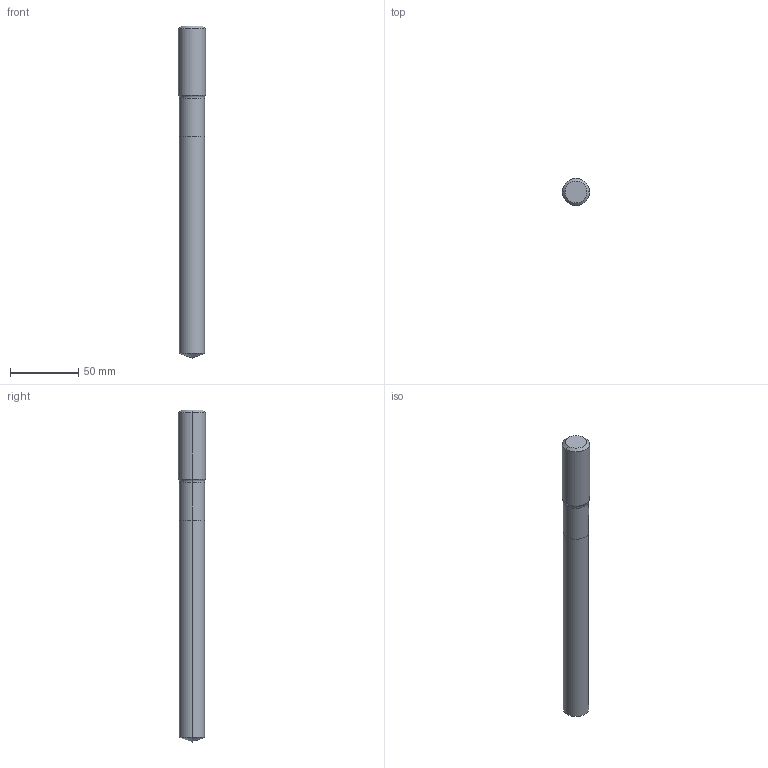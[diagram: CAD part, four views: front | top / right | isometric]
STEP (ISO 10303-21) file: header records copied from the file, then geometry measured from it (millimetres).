
FILE_DESCRIPTION (( 'STEP AP214' ), '1' );
FILE_NAME ('754.185.00_3D-model.step', '2023-08-22T07:38:07', ( '' ), ( '' ), 'SwSTEP 2.0', 'SolidWorks 2020', '' );
FILE_SCHEMA (( 'AUTOMOTIVE_DESIGN' ));
Length unit declared in the file: millimetre
Products named in the file (3): NOCUT-3D^Baugr91; 754.185.00_3D-model; CUT-3D^Baugr91
Assembly tree (2 placements, depth 2):
  754.185.00_3D-model
    CUT-3D^Baugr91
    NOCUT-3D^Baugr91
Bounding box: 20 x 20 x 243 mm (x, y, z)
Volume: 66929.8 mm3; surface area: 15237.9 mm2
Topology: 2 solids, 2 shells, 17 faces, 32 edges, 17 vertices
Faces by surface type: cone 6, cylinder 6, plane 3, torus 2
Entity records: 532 total; most frequent: DIRECTION 98, CARTESIAN_POINT 72, ORIENTED_EDGE 60, AXIS2_PLACEMENT_3D 43, EDGE_CURVE 30, CIRCLE 18, EDGE_LOOP 17, FACE_OUTER_BOUND 17
